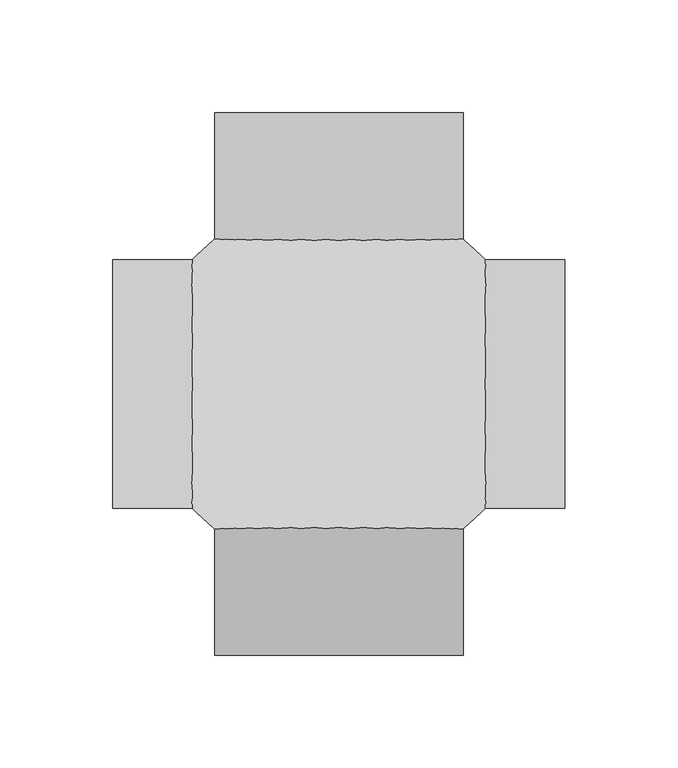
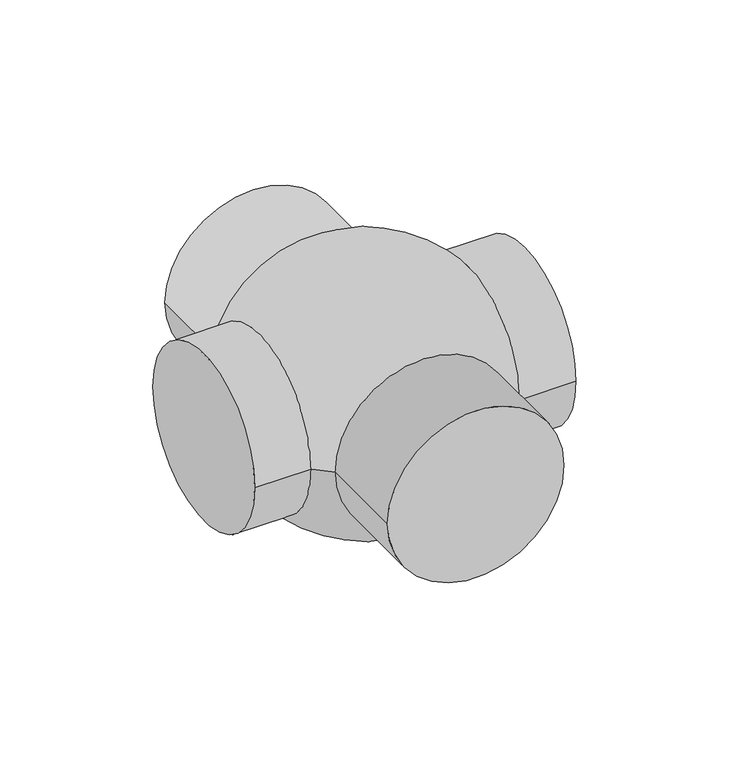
"""IFC4 building model written with IfcOpenShell, lengths in millimetres: pipe fitting geometry, NLRS_52_PIF_UN_PE kogel T-stuk 88,5° dubbel, aansluitingen 180° sprong_geb : DN60-150 / ø63-160."""

from ifc_helpers import new_model, si_unit, point, frame, origin, origin_with_axes, origin_2d, place, context, project, spatial, circle_curve, ellipse_curve, trimmed, segment, composite_curve, outline, extrude, source, transform, mapped, element, save
from ifc_brep_helpers import plane_surface, cylinder_surface, revolved_surface, advanced_brep


def pipe_fitting_72bd3ef1(model_context):
    return source(origin(), model_context, "Body", "SolidModel", [
        extrude(outline(composite_curve([segment(trimmed(circle_curve(origin_2d(), 55.0), [point((0.0, -55.0))], [point((0.0, 55.0))], False, "CARTESIAN"), True, "CONTINUOUS"), segment(trimmed(circle_curve(origin_2d(), 55.0), [point((0.0, 55.0))], [point((0.0, -55.0))], False, "CARTESIAN"), True, "CONTINUOUS")], self_intersect=False)), frame((0.0, -120.0, 0.0), z_axis=(0.0, 1.0, 0.0), x_axis=(0.0, 0.0, 1.0)), (0.0, 0.0, 1.0), 120.0),
        extrude(outline(composite_curve([segment(trimmed(circle_curve(origin_2d(), 55.0), [point((0.0, 55.0))], [point((0.0, -55.0))], False, "CARTESIAN"), True, "CONTINUOUS"), segment(trimmed(circle_curve(origin_2d(), 55.0), [point((0.0, -55.0))], [point((0.0, 55.0))], False, "CARTESIAN"), True, "CONTINUOUS")], self_intersect=False)), frame((0.0, 0.0, 0.0), z_axis=(0.0, 1.0, 0.0), x_axis=(0.0, 0.0, 1.0)), (0.0, 0.0, 1.0), 120.0),
        advanced_brep(
        [(0.0, -85.0, 0.0), (-64.807407, -55.0, 0.0), (-64.807407, 55.0, 0.0), (0.0, 85.0, 0.0), (64.807407, 55.0, 0.0), (64.807407, -55.0, 0.0), (100.0, -55.0, 0.0), (100.0, 55.0, 0.0), (-100.0, -55.0, 0.0), (-100.0, 55.0, 0.0)],
        [
            (0, 1, circle_curve(frame((0.0, 0.0, 0.0), z_axis=(0.0, 0.0, -1.0), x_axis=(1.0, 0.0, 0.0)), 85.0)),
            (1, 2, circle_curve(frame((-64.807407, 0.0, 0.0), z_axis=(1.0, 0.0, 0.0), x_axis=(0.0, 1.0, 0.0)), 55.0)),
            (2, 3, circle_curve(frame((0.0, 0.0, 0.0), z_axis=(0.0, 0.0, -1.0), x_axis=(1.0, 0.0, 0.0)), 85.0)),
            (3, 4, circle_curve(frame((0.0, 0.0, 0.0), z_axis=(0.0, 0.0, -1.0), x_axis=(-1.0, 0.0, 0.0)), 85.0)),
            (4, 5, circle_curve(frame((64.807407, 0.0, 0.0), z_axis=(-1.0, 0.0, 0.0), x_axis=(0.0, 1.0, 0.0)), 55.0)),
            (5, 0, circle_curve(frame((0.0, 0.0, 0.0), z_axis=(0.0, 0.0, -1.0), x_axis=(-1.0, 0.0, 0.0)), 85.0)),
            (5, 4, circle_curve(frame((64.807407, 0.0, 0.0), z_axis=(-1.0, 0.0, 0.0), x_axis=(0.0, 1.0, 0.0)), 55.0)),
            (2, 1, circle_curve(frame((-64.807407, 0.0, 0.0), z_axis=(1.0, 0.0, 0.0), x_axis=(0.0, 1.0, 0.0)), 55.0)),
            (6, 7, circle_curve(frame((100.0, 0.0, 0.0), z_axis=(1.0, 0.0, 0.0), x_axis=(0.0, 1.0, 0.0)), 55.0)),
            (7, 6, circle_curve(frame((100.0, 0.0, 0.0), z_axis=(1.0, 0.0, 0.0), x_axis=(0.0, 1.0, 0.0)), 55.0)),
            (8, 9, circle_curve(frame((-100.0, 0.0, 0.0), z_axis=(-1.0, 0.0, 0.0), x_axis=(0.0, 1.0, 0.0)), 55.0)),
            (9, 8, circle_curve(frame((-100.0, 0.0, 0.0), z_axis=(-1.0, 0.0, 0.0), x_axis=(0.0, 1.0, 0.0)), 55.0)),
            (6, 5),
            (4, 7),
            (9, 2),
            (1, 8),
        ],
        [
            revolved_surface(trimmed(ellipse_curve(origin_with_axes(), 85.0, 85.0), [point((0.0, 85.0, 0.0))], [point((0.0, -85.0, 0.0))], True, "CARTESIAN"), (0.0, 125.0, 0.0), (0.0, -1.0, 0.0)),
            plane_surface(frame((100.0, 55.0, 0.0), z_axis=(1.0, 0.0, 0.0), x_axis=(0.0, 0.0, 1.0))),
            plane_surface(frame((-100.0, 55.0, 0.0), z_axis=(-1.0, 0.0, 0.0), x_axis=(0.0, 0.0, -1.0))),
            cylinder_surface(frame((-100.0, 0.0, 0.0), z_axis=(1.0, 0.0, 0.0), x_axis=(0.0, 1.0, 0.0)), 55.0),
        ],
        [
            (0, [[1, 2, 3, 4, 5, 6]]),
            (0, [[-1, -6, 7, -4, -3, 8]]),
            (1, [[9, 10]]),
            (2, [[11, 12]]),
            (3, [[-9, 13, -5, 14]]),
            (3, [[-12, 15, -2, 16]]),
            (3, [[-10, -14, -7, -13]]),
            (3, [[-11, -16, -8, -15]]),
        ],
    ),
    ])


if __name__ == "__main__":
    model = new_model("IFC4")
    model_context = context("Model", 3, world=origin())
    ifc_project = project(units=[si_unit("LENGTHUNIT", "METRE", prefix="MILLI")], contexts=[model_context])
    site = spatial("IfcSite", under=ifc_project)
    building = spatial("IfcBuilding", under=site)
    placement = place(None, origin())
    pipe_fitting_shape = pipe_fitting_72bd3ef1(model_context)
    element("IfcPipeFitting", 1, ObjectType="NLRS_52_PIF_UN_PE kogel T-stuk 88,5° dubbel, aansluitingen 180° sprong_geb : DN60-150 / ø63-160", at=placement, inside=building, context=model_context, shape_type="MappedRepresentation", body=[
        mapped(pipe_fitting_shape, transform((0.0, 0.0, 0.0), x_axis=(1.0, 0.0, 0.0), y_axis=(0.0, 1.0, 0.0), z_axis=(0.0, 0.0, 1.0))),
    ])
    save(model, "model.ifc")
